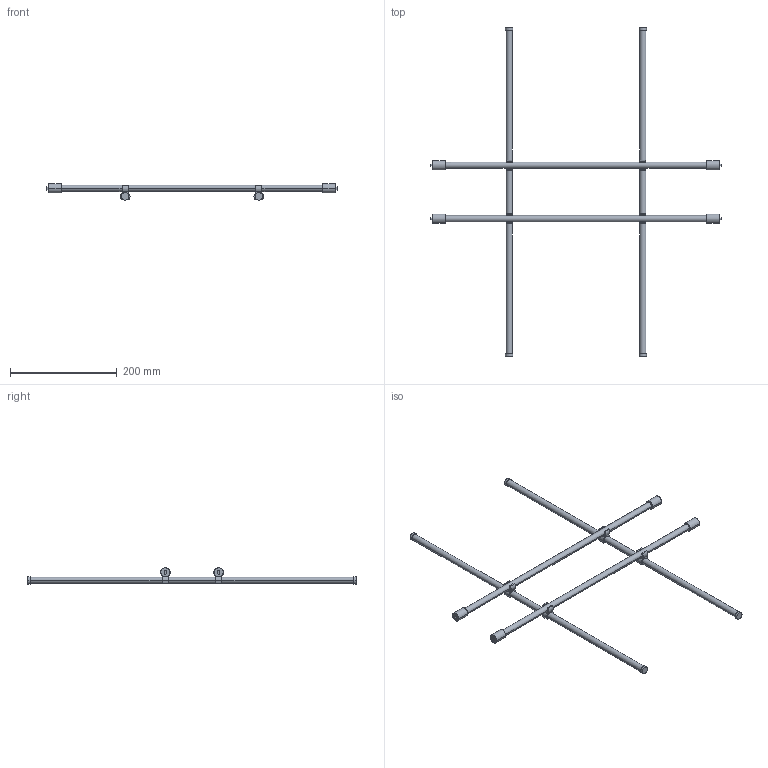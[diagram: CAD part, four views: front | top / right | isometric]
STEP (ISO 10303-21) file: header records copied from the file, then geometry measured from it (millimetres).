
FILE_DESCRIPTION (( 'STEP AP214' ), '1' );
FILE_NAME ('Magic-Classic_NL-650-KAB 600.step', '2010-09-16T12:49:25', ( 'grass' ), ( '' ), 'SwSTEP 2.0', 'SolidWorks 2010', '' );
FILE_SCHEMA (( 'AUTOMOTIVE_DESIGN' ));
Length unit declared in the file: millimetre
Products named in the file (1): Magic-Classic_NL-650-KAB 600
Bounding box: 543 x 615 x 30.45 mm (x, y, z)
Volume: 281131.1 mm3; surface area: 93393 mm2
Topology: 1 solids, 1 shells, 140 faces, 384 edges, 256 vertices
Faces by surface type: plane 76, cylinder 64
Entity records: 4546 total; most frequent: DIRECTION 826, CARTESIAN_POINT 781, ORIENTED_EDGE 768, EDGE_CURVE 384, AXIS2_PLACEMENT_3D 301, VERTEX_POINT 256, LINE 224, VECTOR 224
